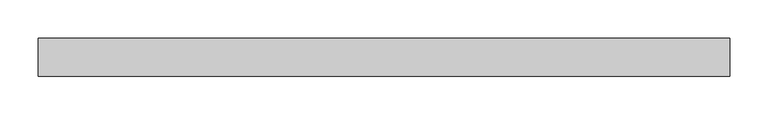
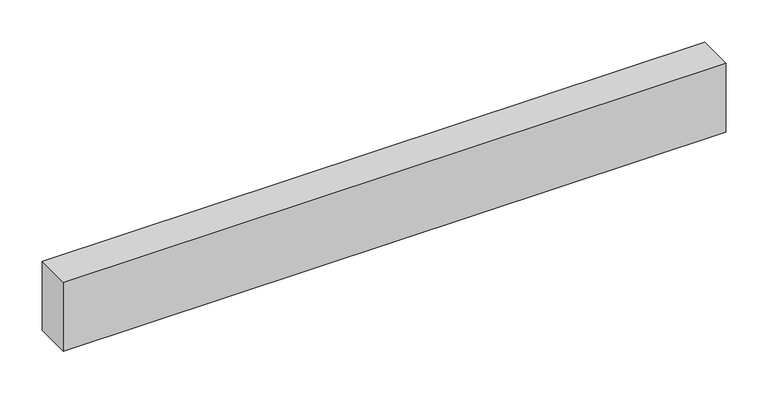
"""IFC4 building model written with IfcOpenShell, lengths in millimetres: light fixture geometry, ZYR_06.02.05 Tira Led : Tira Led 03."""

from ifc_helpers import new_model, si_unit, origin, origin_with_axes, place, context, project, spatial, polyline, outline, extrude, source, transform, mapped, element, save


def light_fixture_f25a7abd(model_context):
    return source(origin(), model_context, "Body", "SweptSolid", [
        extrude(outline(polyline([(452.6154014, 25.0), (452.6154014, -25.0), (-452.6154014, -25.0), (-452.6154014, 25.0), (452.6154014, 25.0)])), origin_with_axes(), (0.0, 0.0, 1.0), 100.0),
    ])


if __name__ == "__main__":
    model = new_model("IFC4")
    model_context = context("Model", 3, world=origin())
    ifc_project = project(units=[si_unit("LENGTHUNIT", "METRE", prefix="MILLI")], contexts=[model_context])
    site = spatial("IfcSite", under=ifc_project)
    building = spatial("IfcBuilding", under=site)
    placement = place(None, origin())
    light_fixture_shape = light_fixture_f25a7abd(model_context)
    element("IfcLightFixture", 1, ObjectType="ZYR_06.02.05 Tira Led : Tira Led 03", at=placement, inside=building, context=model_context, shape_type="MappedRepresentation", body=[
        mapped(light_fixture_shape, transform((0.0, 0.0, 0.0), x_axis=(1.0, 0.0, 0.0), y_axis=(0.0, 1.0, 0.0), z_axis=(0.0, 0.0, 1.0))),
    ])
    save(model, "model.ifc")
